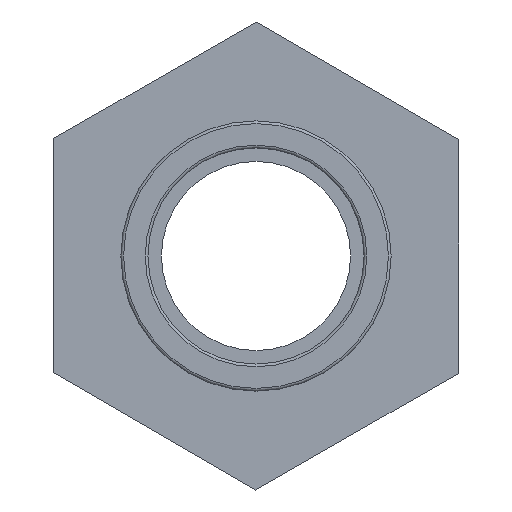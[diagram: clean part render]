
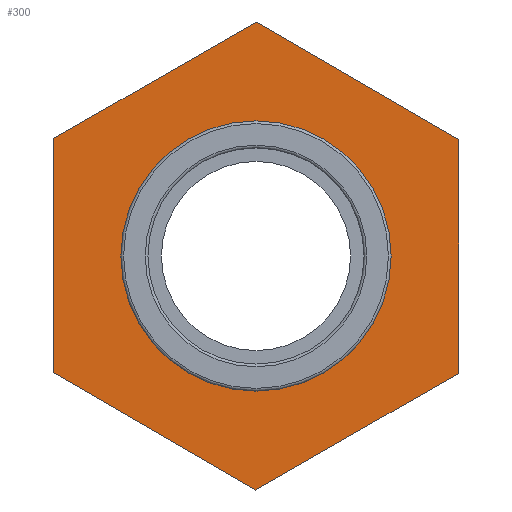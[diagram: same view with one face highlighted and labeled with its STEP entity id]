
A CAD part, left-side view. The second image highlights one B-rep face of the part: STEP entity #300.
In plain terms, the highlighted planar face has unit normal (-1, 0, 0).
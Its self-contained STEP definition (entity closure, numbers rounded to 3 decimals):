
#15=LINE('',#466,#33);
#19=LINE('',#474,#37);
#22=LINE('',#480,#40);
#25=LINE('',#487,#43);
#29=LINE('',#494,#47);
#31=LINE('',#497,#49);
#33=VECTOR('',#386,17.321);
#37=VECTOR('',#392,17.321);
#40=VECTOR('',#397,17.321);
#43=VECTOR('',#402,17.321);
#47=VECTOR('',#408,17.321);
#49=VECTOR('',#412,17.321);
#67=PLANE('',#337);
#82=FACE_BOUND('',#139,.T.);
#103=FACE_OUTER_BOUND('',#138,.T.);
#138=EDGE_LOOP('',(#269,#270,#271,#272,#273,#274));
#139=EDGE_LOOP('',(#275));
#151=CIRCLE('',#324,10.);
#165=VERTEX_POINT('',#461);
#166=VERTEX_POINT('',#464);
#167=VERTEX_POINT('',#465);
#170=VERTEX_POINT('',#473);
#172=VERTEX_POINT('',#479);
#174=VERTEX_POINT('',#485);
#175=VERTEX_POINT('',#486);
#191=EDGE_CURVE('',#165,#165,#151,.T.);
#192=EDGE_CURVE('',#166,#167,#15,.T.);
#196=EDGE_CURVE('',#167,#170,#19,.T.);
#199=EDGE_CURVE('',#170,#172,#22,.T.);
#202=EDGE_CURVE('',#174,#175,#25,.T.);
#206=EDGE_CURVE('',#175,#166,#29,.T.);
#208=EDGE_CURVE('',#172,#174,#31,.T.);
#269=ORIENTED_EDGE('',*,*,#206,.F.);
#270=ORIENTED_EDGE('',*,*,#202,.F.);
#271=ORIENTED_EDGE('',*,*,#208,.F.);
#272=ORIENTED_EDGE('',*,*,#199,.F.);
#273=ORIENTED_EDGE('',*,*,#196,.F.);
#274=ORIENTED_EDGE('',*,*,#192,.F.);
#275=ORIENTED_EDGE('',*,*,#191,.F.);
#300=ADVANCED_FACE('',(#103,#82),#67,.T.);
#324=AXIS2_PLACEMENT_3D('',#462,#382,#383);
#337=AXIS2_PLACEMENT_3D('',#507,#426,#427);
#382=DIRECTION('center_axis',(-1.,0.,0.));
#383=DIRECTION('ref_axis',(0.,0.,1.));
#386=DIRECTION('',(0.,0.003,-1.));
#392=DIRECTION('',(0.,0.867,-0.498));
#397=DIRECTION('',(0.,0.865,0.502));
#402=DIRECTION('',(0.,-0.867,0.498));
#408=DIRECTION('',(0.,-0.865,-0.502));
#412=DIRECTION('',(0.,-0.003,1.));
#426=DIRECTION('center_axis',(-1.,0.,0.));
#427=DIRECTION('ref_axis',(0.,0.,1.));
#461=CARTESIAN_POINT('',(-4.,-10.,0.));
#462=CARTESIAN_POINT('Origin',(-4.,0.,0.));
#464=CARTESIAN_POINT('',(-4.,-15.024,8.619));
#465=CARTESIAN_POINT('',(-4.,-14.976,-8.701));
#466=CARTESIAN_POINT('',(-4.,-14.988,-4.371));
#473=CARTESIAN_POINT('',(-4.,0.048,-17.32));
#474=CARTESIAN_POINT('',(-4.,-3.708,-15.166));
#479=CARTESIAN_POINT('',(-4.,15.024,-8.619));
#480=CARTESIAN_POINT('',(-4.,11.28,-10.794));
#485=CARTESIAN_POINT('',(-4.,14.976,8.701));
#486=CARTESIAN_POINT('',(-4.,-0.048,17.32));
#487=CARTESIAN_POINT('',(-4.,3.708,15.166));
#494=CARTESIAN_POINT('',(-4.,-11.28,10.794));
#497=CARTESIAN_POINT('',(-4.,15.,0.041));
#507=CARTESIAN_POINT('Origin',(-4.,-10.,0.));
